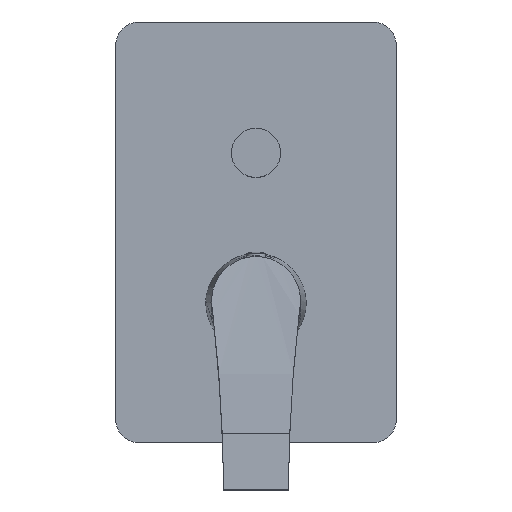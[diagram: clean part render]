
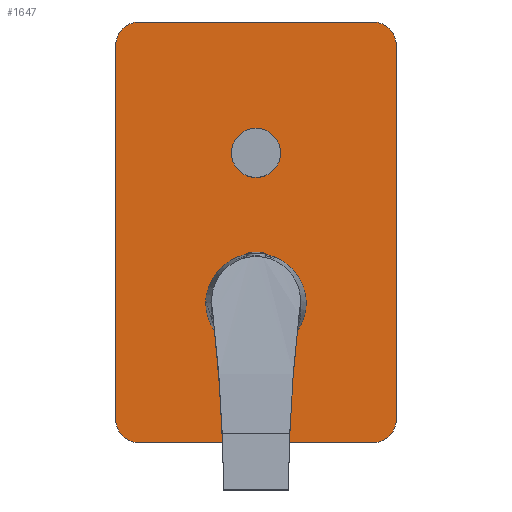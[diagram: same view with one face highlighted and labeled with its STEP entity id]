
A CAD part, top view. The second image highlights one B-rep face of the part: STEP entity #1647.
In plain terms, the highlighted planar face has unit normal (0, 0, 1).
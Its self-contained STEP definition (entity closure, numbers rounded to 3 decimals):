
#164=LINE('',#2437,#271);
#167=LINE('',#2443,#274);
#168=LINE('',#2447,#275);
#169=LINE('',#2451,#276);
#271=VECTOR('',#1982,10.);
#274=VECTOR('',#1987,10.);
#275=VECTOR('',#1990,10.);
#276=VECTOR('',#1993,10.);
#401=FACE_BOUND('',#518,.T.);
#402=FACE_BOUND('',#519,.T.);
#423=FACE_OUTER_BOUND('',#517,.T.);
#517=EDGE_LOOP('',(#1148,#1149,#1150,#1151,#1152,#1153,#1154,#1155));
#518=EDGE_LOOP('',(#1156,#1157));
#519=EDGE_LOOP('',(#1158,#1159));
#620=CIRCLE('',#1760,10.5);
#621=CIRCLE('',#1761,10.5);
#629=CIRCLE('',#1774,10.);
#630=CIRCLE('',#1777,10.);
#631=CIRCLE('',#1778,10.);
#632=CIRCLE('',#1779,10.);
#633=CIRCLE('',#1780,21.);
#634=CIRCLE('',#1781,21.);
#708=VERTEX_POINT('',#2402);
#709=VERTEX_POINT('',#2403);
#718=VERTEX_POINT('',#2430);
#719=VERTEX_POINT('',#2432);
#720=VERTEX_POINT('',#2436);
#722=VERTEX_POINT('',#2442);
#723=VERTEX_POINT('',#2444);
#724=VERTEX_POINT('',#2446);
#725=VERTEX_POINT('',#2448);
#726=VERTEX_POINT('',#2450);
#727=VERTEX_POINT('',#2453);
#728=VERTEX_POINT('',#2454);
#873=EDGE_CURVE('',#708,#709,#620,.T.);
#874=EDGE_CURVE('',#709,#708,#621,.T.);
#887=EDGE_CURVE('',#718,#719,#629,.T.);
#889=EDGE_CURVE('',#719,#720,#164,.T.);
#892=EDGE_CURVE('',#722,#718,#167,.T.);
#893=EDGE_CURVE('',#723,#722,#630,.T.);
#894=EDGE_CURVE('',#724,#723,#168,.T.);
#895=EDGE_CURVE('',#725,#724,#631,.T.);
#896=EDGE_CURVE('',#726,#725,#169,.T.);
#897=EDGE_CURVE('',#720,#726,#632,.T.);
#898=EDGE_CURVE('',#727,#728,#633,.T.);
#899=EDGE_CURVE('',#728,#727,#634,.T.);
#1148=ORIENTED_EDGE('',*,*,#887,.F.);
#1149=ORIENTED_EDGE('',*,*,#892,.F.);
#1150=ORIENTED_EDGE('',*,*,#893,.F.);
#1151=ORIENTED_EDGE('',*,*,#894,.F.);
#1152=ORIENTED_EDGE('',*,*,#895,.F.);
#1153=ORIENTED_EDGE('',*,*,#896,.F.);
#1154=ORIENTED_EDGE('',*,*,#897,.F.);
#1155=ORIENTED_EDGE('',*,*,#889,.F.);
#1156=ORIENTED_EDGE('',*,*,#873,.T.);
#1157=ORIENTED_EDGE('',*,*,#874,.T.);
#1158=ORIENTED_EDGE('',*,*,#898,.T.);
#1159=ORIENTED_EDGE('',*,*,#899,.T.);
#1595=PLANE('',#1776);
#1647=ADVANCED_FACE('',(#423,#401,#402),#1595,.F.);
#1760=AXIS2_PLACEMENT_3D('',#2404,#1944,#1945);
#1761=AXIS2_PLACEMENT_3D('',#2405,#1946,#1947);
#1774=AXIS2_PLACEMENT_3D('',#2433,#1977,#1978);
#1776=AXIS2_PLACEMENT_3D('',#2441,#1985,#1986);
#1777=AXIS2_PLACEMENT_3D('',#2445,#1988,#1989);
#1778=AXIS2_PLACEMENT_3D('',#2449,#1991,#1992);
#1779=AXIS2_PLACEMENT_3D('',#2452,#1994,#1995);
#1780=AXIS2_PLACEMENT_3D('',#2455,#1996,#1997);
#1781=AXIS2_PLACEMENT_3D('',#2456,#1998,#1999);
#1944=DIRECTION('center_axis',(0.,0.,-1.));
#1945=DIRECTION('ref_axis',(0.,1.,0.));
#1946=DIRECTION('center_axis',(0.,0.,-1.));
#1947=DIRECTION('ref_axis',(0.,1.,0.));
#1977=DIRECTION('center_axis',(0.,0.,-1.));
#1978=DIRECTION('ref_axis',(-0.707,-0.707,0.));
#1982=DIRECTION('',(0.,1.,0.));
#1985=DIRECTION('center_axis',(0.,0.,-1.));
#1986=DIRECTION('ref_axis',(-1.,0.,0.));
#1987=DIRECTION('',(-1.,0.,0.));
#1988=DIRECTION('center_axis',(0.,0.,-1.));
#1989=DIRECTION('ref_axis',(0.707,-0.707,0.));
#1990=DIRECTION('',(0.,-1.,0.));
#1991=DIRECTION('center_axis',(0.,0.,-1.));
#1992=DIRECTION('ref_axis',(0.707,0.707,0.));
#1993=DIRECTION('',(1.,0.,0.));
#1994=DIRECTION('center_axis',(0.,0.,-1.));
#1995=DIRECTION('ref_axis',(-0.707,0.707,0.));
#1996=DIRECTION('center_axis',(0.,0.,-1.));
#1997=DIRECTION('ref_axis',(0.,1.,0.));
#1998=DIRECTION('center_axis',(0.,0.,-1.));
#1999=DIRECTION('ref_axis',(0.,1.,0.));
#2402=CARTESIAN_POINT('',(24.,74.5,8.));
#2403=CARTESIAN_POINT('',(24.,53.5,8.));
#2404=CARTESIAN_POINT('Origin',(24.,64.,8.));
#2405=CARTESIAN_POINT('Origin',(24.,64.,8.));
#2430=CARTESIAN_POINT('',(-26.,-60.,8.));
#2432=CARTESIAN_POINT('',(-36.,-50.,8.));
#2433=CARTESIAN_POINT('Origin',(-26.,-50.,8.));
#2436=CARTESIAN_POINT('',(-36.,110.,8.));
#2437=CARTESIAN_POINT('',(-36.,-60.,8.));
#2441=CARTESIAN_POINT('Origin',(24.,30.,8.));
#2442=CARTESIAN_POINT('',(74.,-60.,8.));
#2443=CARTESIAN_POINT('',(84.,-60.,8.));
#2444=CARTESIAN_POINT('',(84.,-50.,8.));
#2445=CARTESIAN_POINT('Origin',(74.,-50.,8.));
#2446=CARTESIAN_POINT('',(84.,110.,8.));
#2447=CARTESIAN_POINT('',(84.,120.,8.));
#2448=CARTESIAN_POINT('',(74.,120.,8.));
#2449=CARTESIAN_POINT('Origin',(74.,110.,8.));
#2450=CARTESIAN_POINT('',(-26.,120.,8.));
#2451=CARTESIAN_POINT('',(-36.,120.,8.));
#2452=CARTESIAN_POINT('Origin',(-26.,110.,8.));
#2453=CARTESIAN_POINT('',(24.,21.,8.));
#2454=CARTESIAN_POINT('',(24.,-21.,8.));
#2455=CARTESIAN_POINT('Origin',(24.,0.,8.));
#2456=CARTESIAN_POINT('Origin',(24.,0.,8.));
